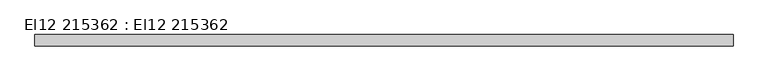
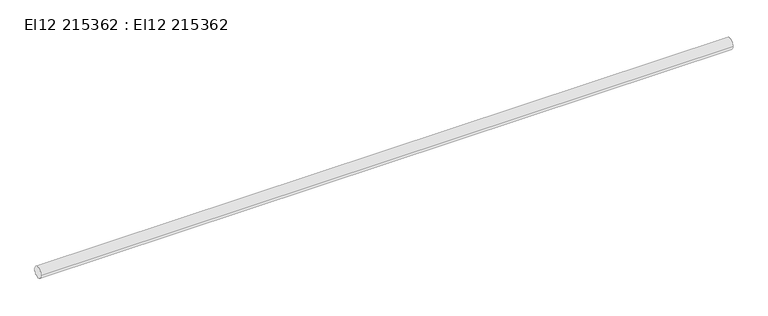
"""IFC4 building model written with IfcOpenShell, lengths in millimetres: cable carrier segment geometry, El12 215362 : El12 215362."""

import ifcopenshell
import ifcopenshell.guid

model = None  # the IFC model being written
_history = None  # IfcOwnerHistory: only IFC2X3 demands one
_inside = {}  # id of a spatial element -> (the spatial element, [elements in it])
_under = {}  # id of a project, library or spatial element -> (it, [spatial elements below it])
_declared = {}  # id of a project -> (the project, [libraries it declares])
_typed = {}  # id of a type object -> (the type object, [elements of that type])
_made_of = {}  # id of a material, layer set ... -> (it, [elements and type objects made of it])


def new_model(schema):
    """Start an empty IFC model of exactly this schema.

    Asked for "IFC4X3", IfcOpenShell would pick the latest addendum, in which some entities
    have other attributes; the version numbers below select the first issue.
    IFC2X3 requires an IfcOwnerHistory on every rooted entity: one is made here for all.
    """
    global model, _history
    if schema == "IFC4X3":
        model = ifcopenshell.file(schema_version=(4, 3, 0, 0))
    else:
        model = ifcopenshell.file(schema=schema)
    _inside.clear()
    _under.clear()
    _declared.clear()
    _typed.clear()
    _made_of.clear()
    _history = None
    if model.schema == "IFC2X3":
        org = make("IfcOrganization", Name="unknown")
        user = make(
            "IfcPersonAndOrganization",
            ThePerson=make("IfcPerson", FamilyName="unknown"),
            TheOrganization=org,
        )
        app = make(
            "IfcApplication",
            ApplicationDeveloper=org,
            Version="unknown",
            ApplicationFullName="unknown",
            ApplicationIdentifier="unknown",
        )
        _history = make(
            "IfcOwnerHistory",
            OwningUser=user,
            OwningApplication=app,
            ChangeAction="ADDED",
            CreationDate=0,
        )
    return model


def make(cls, **values):
    """One entity of the class cls with the attributes given. An attribute that is None is left unset."""
    return model.create_entity(
        cls, **{name: value for name, value in values.items() if value is not None}
    )


def rooted(cls, **values):
    """An entity with a GlobalId (a new one), such as an element, a storey or a relation."""
    return make(cls, GlobalId=ifcopenshell.guid.new(), OwnerHistory=_history, **values)


def si_unit(unit_type, name, prefix=None):
    """IfcSIUnit, for example si_unit("LENGTHUNIT", "METRE", prefix="MILLI")."""
    return make("IfcSIUnit", UnitType=unit_type, Prefix=prefix, Name=name)


def assignment(units):
    """IfcUnitAssignment: the units of a project."""
    return None if units is None else make("IfcUnitAssignment", Units=units)


def point(xyz):
    """IfcCartesianPoint."""
    return None if xyz is None else make("IfcCartesianPoint", Coordinates=xyz)


def direction(xyz):
    """IfcDirection."""
    return None if xyz is None else make("IfcDirection", DirectionRatios=xyz)


def frame(location, z_axis=None, x_axis=None):
    """IfcAxis2Placement3D, a coordinate frame: its origin and axes. An axis left out is left unset."""
    return make(
        "IfcAxis2Placement3D",
        Location=point(location),
        Axis=direction(z_axis),
        RefDirection=direction(x_axis),
    )


def frame_2d(location, x_axis=None):
    """IfcAxis2Placement2D, a coordinate frame in the plane: its origin and x axis."""
    return make(
        "IfcAxis2Placement2D", Location=point(location), RefDirection=direction(x_axis)
    )


def origin():
    """The frame at (0, 0, 0) with its axes left unset."""
    return frame((0.0, 0.0, 0.0))


def place(relative_to, where):
    """IfcLocalPlacement: puts the frame where relative to a parent placement (None: the world)."""
    return make(
        "IfcLocalPlacement", PlacementRelTo=relative_to, RelativePlacement=where
    )


def context(
    kind, dimensions, precision=None, world=None, true_north=None, identifier=None
):
    """IfcGeometricRepresentationContext, for example the 3D "Model" context."""
    return make(
        "IfcGeometricRepresentationContext",
        ContextIdentifier=identifier,
        ContextType=kind,
        CoordinateSpaceDimension=dimensions,
        Precision=precision,
        WorldCoordinateSystem=world,
        TrueNorth=true_north,
    )


def project(units=None, contexts=None):
    """IfcProject with its units and contexts."""
    return rooted(
        "IfcProject",
        Name="project",
        RepresentationContexts=contexts,
        UnitsInContext=assignment(units),
    )


def spatial(cls, under=None, at=None, **own):
    """A site, building, storey or space (cls), placed at a placement, below another one or the project."""
    s = rooted(cls, ObjectPlacement=at, **own)
    if under is not None:
        _under.setdefault(under.id(), (under, []))[1].append(s)
    return s


def circle_curve(where, radius):
    """IfcCircle in the frame where."""
    return make("IfcCircle", Position=where, Radius=radius)


def trimmed(basis, trim1, trim2, sense, master):
    """IfcTrimmedCurve: the piece of a basis curve between two trims."""
    return make(
        "IfcTrimmedCurve",
        BasisCurve=basis,
        Trim1=trim1,
        Trim2=trim2,
        SenseAgreement=sense,
        MasterRepresentation=master,
    )


def segment(curve, same_sense, transition):
    """IfcCompositeCurveSegment."""
    return make(
        "IfcCompositeCurveSegment",
        Transition=transition,
        SameSense=same_sense,
        ParentCurve=curve,
    )


def composite_curve(segments, self_intersect=None):
    """IfcCompositeCurve: segments joined end to end."""
    return make("IfcCompositeCurve", Segments=segments, SelfIntersect=self_intersect)


def outline(outer, holes=None, kind="AREA"):
    """IfcArbitraryClosedProfileDef: a profile drawn as a closed curve; with holes, ...WithVoids."""
    if holes is None:
        return make("IfcArbitraryClosedProfileDef", ProfileType=kind, OuterCurve=outer)
    return make(
        "IfcArbitraryProfileDefWithVoids",
        ProfileType=kind,
        OuterCurve=outer,
        InnerCurves=holes,
    )


def extrude(swept, where, along, depth):
    """IfcExtrudedAreaSolid: the profile swept, set in the frame where, extruded along a direction by depth."""
    return make(
        "IfcExtrudedAreaSolid",
        SweptArea=swept,
        Position=where,
        ExtrudedDirection=direction(along),
        Depth=depth,
    )


def shape(context_of_items, identifier, shape_type, items):
    """IfcShapeRepresentation: the items that make up one representation, for example the "Body"."""
    return make(
        "IfcShapeRepresentation",
        ContextOfItems=context_of_items,
        RepresentationIdentifier=identifier,
        RepresentationType=shape_type,
        Items=items,
    )


def source(mapping_origin, context_of_items, identifier, shape_type, items):
    """IfcRepresentationMap: a shape defined once, which mapped items show again and again."""
    return make(
        "IfcRepresentationMap",
        MappingOrigin=mapping_origin,
        MappedRepresentation=shape(context_of_items, identifier, shape_type, items),
    )


def transform(
    local_origin,
    x_axis=None,
    y_axis=None,
    z_axis=None,
    scale=None,
    scale2=None,
    scale3=None,
    uniform=True,
):
    """IfcCartesianTransformationOperator3D, or its non-uniform kind. x_axis, y_axis, z_axis: its Axis1, 2, 3."""
    if uniform:
        return make(
            "IfcCartesianTransformationOperator3D",
            Axis1=direction(x_axis),
            Axis2=direction(y_axis),
            LocalOrigin=point(local_origin),
            Scale=scale,
            Axis3=direction(z_axis),
        )
    return make(
        "IfcCartesianTransformationOperator3DnonUniform",
        Axis1=direction(x_axis),
        Axis2=direction(y_axis),
        LocalOrigin=point(local_origin),
        Scale=scale,
        Axis3=direction(z_axis),
        Scale2=scale2,
        Scale3=scale3,
    )


def mapped(mapping_source, mapping_target):
    """IfcMappedItem: shows the shape of a source again, moved by a transform."""
    return make(
        "IfcMappedItem", MappingSource=mapping_source, MappingTarget=mapping_target
    )


def made_of(thing, what):
    """Note that an element or type object is made of a material, layer set ...; save() writes the relation."""
    if what is not None:
        _made_of.setdefault(what.id(), (what, []))[1].append(thing)
    return thing


def element(
    cls,
    number,
    at=None,
    inside=None,
    cuts=None,
    type_object=None,
    material=None,
    context=None,
    identifier="Body",
    shape_type=None,
    held_by="IfcProductDefinitionShape",
    body=None,
    shapes=None,
    **own,
):
    """One element of the class cls, such as IfcWall. Its Tag is "e" and its number.

    at: its placement. inside: the storey or other place that contains it. cuts: it is an
    opening in that element (IfcRelVoidsElement). A single representation is given by context,
    identifier, shape_type and body (its items); several are given by shapes. held_by: the class
    of the entity that holds the representations. save() writes the other relations.
    """
    e = rooted(cls, Tag="e%d" % number, ObjectPlacement=at, **own)
    if body is not None:
        shapes = [shape(context, identifier, shape_type, body)]
    if shapes is not None:
        e.Representation = make(held_by, Representations=shapes)
    if inside is not None:
        _inside.setdefault(inside.id(), (inside, []))[1].append(e)
    if cuts is not None:
        rooted(
            "IfcRelVoidsElement", RelatingBuildingElement=cuts, RelatedOpeningElement=e
        )
    if type_object is not None:
        _typed.setdefault(type_object.id(), (type_object, []))[1].append(e)
    return made_of(e, material)


def aggregate(whole, parts):
    """IfcRelAggregates: a whole, such as a stair, and the parts it consists of."""
    return rooted("IfcRelAggregates", RelatingObject=whole, RelatedObjects=parts)


def save(model, path):
    """Write the relations noted so far, then the file.

    IfcRelAggregates (storeys below a building ...), IfcRelContainedInSpatialStructure (elements
    in a storey), IfcRelDefinesByType, IfcRelAssociatesMaterial and IfcRelDeclares: one each for
    every whole, place, type object, material and project.
    """
    for whole, parts in _under.values():
        aggregate(whole, parts)
    for where, things in _inside.values():
        rooted(
            "IfcRelContainedInSpatialStructure",
            RelatedElements=things,
            RelatingStructure=where,
        )
    for kind, things in _typed.values():
        rooted("IfcRelDefinesByType", RelatedObjects=things, RelatingType=kind)
    for what, things in _made_of.values():
        rooted("IfcRelAssociatesMaterial", RelatedObjects=things, RelatingMaterial=what)
    for by, libraries in _declared.values():
        rooted("IfcRelDeclares", RelatingContext=by, RelatedDefinitions=libraries)
    model.write(path)


def el12_215362_el12_215362_274fb223(model_context):
    return source(origin(), model_context, "Body", "SweptSolid", [
        extrude(outline(composite_curve([segment(trimmed(circle_curve(frame_2d((17022.1, 4200.0)), 9.5), [point((17012.6, 4200.0))], [point((17031.6, 4200.0))], False, "CARTESIAN"), True, "CONTINUOUS"), segment(trimmed(circle_curve(frame_2d((17022.1, 4200.0)), 9.5), [point((17031.6, 4200.0))], [point((17012.6, 4200.0))], False, "CARTESIAN"), True, "CONTINUOUS")], self_intersect=False)), frame((25704.956, 0.0, 0.0), z_axis=(1.0, 0.0, 0.0), x_axis=(0.0, 1.0, 0.0)), (0.0, 0.0, 1.0), 1177.29),
    ])


if __name__ == "__main__":
    model = new_model("IFC4")
    model_context = context("Model", 3, world=origin())
    ifc_project = project(units=[si_unit("LENGTHUNIT", "METRE", prefix="MILLI")], contexts=[model_context])
    site = spatial("IfcSite", under=ifc_project)
    building = spatial("IfcBuilding", under=site)
    placement = place(None, origin())
    el12_215362_el12_215362_shape = el12_215362_el12_215362_274fb223(model_context)
    element("IfcCableCarrierSegment", 1, ObjectType="El12 215362 : El12 215362", at=placement, inside=building, context=model_context, shape_type="MappedRepresentation", body=[
        mapped(el12_215362_el12_215362_shape, transform((0.0, 0.0, 0.0), x_axis=(1.0, 0.0, 0.0), y_axis=(0.0, 1.0, 0.0), z_axis=(0.0, 0.0, 1.0))),
    ])
    save(model, "model.ifc")
